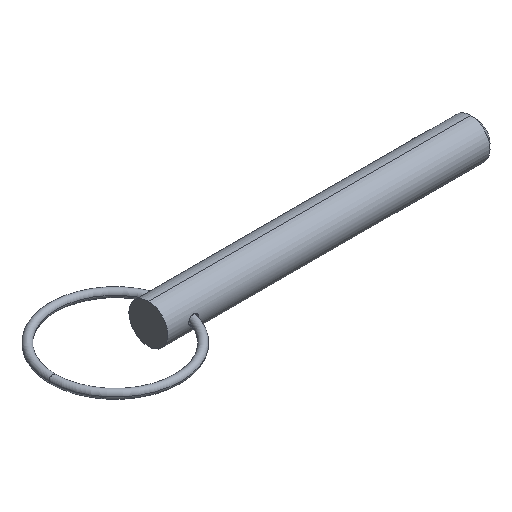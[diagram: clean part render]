
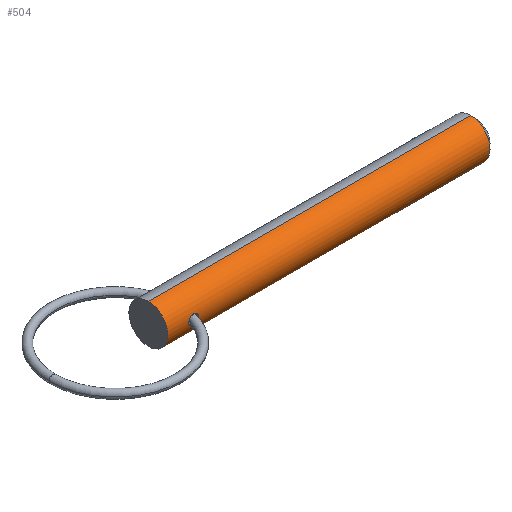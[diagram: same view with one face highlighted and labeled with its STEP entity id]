
A CAD part, isometric view. The second image highlights one B-rep face of the part: STEP entity #504.
In plain terms, the highlighted cylindrical face has radius 3.97 mm (diameter 7.94 mm), a partial arc.
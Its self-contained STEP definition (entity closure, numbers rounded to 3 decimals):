
#1 = CARTESIAN_POINT ( 'NONE',  ( 4.292, -3.963, 0.268 ) ) ;
#11 = CARTESIAN_POINT ( 'NONE',  ( 5.837, -3.871, -0.882 ) ) ;
#26 = DIRECTION ( 'NONE',  ( 1., 0., 0. ) ) ;
#33 = DIRECTION ( 'NONE',  ( 1., 0., 0. ) ) ;
#43 = EDGE_CURVE ( 'NONE', #177, #647, #679, .T. ) ;
#64 = CARTESIAN_POINT ( 'NONE',  ( 5.839, -3.871, 0.882 ) ) ;
#69 = ORIENTED_EDGE ( 'NONE', *, *, #281, .T. ) ;
#74 = CARTESIAN_POINT ( 'NONE',  ( 6.35, -3.97, 0. ) ) ;
#79 = CARTESIAN_POINT ( 'NONE',  ( 4.408, -3.939, -0.508 ) ) ;
#101 = AXIS2_PLACEMENT_3D ( 'NONE', #404, #26, #284 ) ;
#105 = DIRECTION ( 'NONE',  ( 1., 0., 0. ) ) ;
#118 = ORIENTED_EDGE ( 'NONE', *, *, #787, .F. ) ;
#120 = CARTESIAN_POINT ( 'NONE',  ( 4.492, -3.923, -0.614 ) ) ;
#129 = ORIENTED_EDGE ( 'NONE', *, *, #43, .T. ) ;
#149 = CARTESIAN_POINT ( 'NONE',  ( 6.35, -3.97, 0. ) ) ;
#159 = EDGE_CURVE ( 'NONE', #647, #177, #291, .T. ) ;
#177 = VERTEX_POINT ( 'NONE', #616 ) ;
#181 = AXIS2_PLACEMENT_3D ( 'NONE', #765, #690, #754 ) ;
#188 = CARTESIAN_POINT ( 'NONE',  ( 4.408, -3.939, 0.507 ) ) ;
#189 = CARTESIAN_POINT ( 'NONE',  ( 5.587, -3.849, 0.975 ) ) ;
#195 = CARTESIAN_POINT ( 'NONE',  ( 6.35, -3.97, -0.133 ) ) ;
#201 = CARTESIAN_POINT ( 'NONE',  ( 5.587, -3.849, -0.975 ) ) ;
#206 = CIRCLE ( 'NONE', #101, 3.97 ) ;
#216 = CARTESIAN_POINT ( 'NONE',  ( 65.688, 0., -3.97 ) ) ;
#228 = CARTESIAN_POINT ( 'NONE',  ( 4.26, -3.97, 0. ) ) ;
#257 = CARTESIAN_POINT ( 'NONE',  ( 4.691, -3.891, 0.792 ) ) ;
#261 = CARTESIAN_POINT ( 'NONE',  ( 5.455, -3.843, 0.996 ) ) ;
#266 = CARTESIAN_POINT ( 'NONE',  ( 5.952, -3.887, -0.811 ) ) ;
#268 = EDGE_CURVE ( 'NONE', #523, #704, #206, .T. ) ;
#281 = EDGE_CURVE ( 'NONE', #704, #518, #678, .T. ) ;
#284 = DIRECTION ( 'NONE',  ( 0., 0., -1. ) ) ;
#291 = B_SPLINE_CURVE_WITH_KNOTS ( 'NONE', 3,
 ( #462, #573, #1, #188, #646, #257, #730, #512, #778, #261, #189, #64, #445, #416, #811, #541, #610, #149 ),
 .UNSPECIFIED., .F., .F.,
 ( 4, 2, 2, 2, 2, 2, 2, 2, 4 ),
 ( 0.001, 0.001, 0.001, 0.002, 0.002, 0.003, 0.003, 0.003, 0.004 ),
 .UNSPECIFIED. ) ;
#321 = CARTESIAN_POINT ( 'NONE',  ( 4.26, -3.97, -0.134 ) ) ;
#368 = EDGE_CURVE ( 'NONE', #523, #378, #495, .T. ) ;
#378 = VERTEX_POINT ( 'NONE', #699 ) ;
#384 = CARTESIAN_POINT ( 'NONE',  ( 6.324, -3.963, -0.267 ) ) ;
#390 = CARTESIAN_POINT ( 'NONE',  ( 6.145, -3.922, -0.626 ) ) ;
#395 = CARTESIAN_POINT ( 'NONE',  ( 4.291, -3.963, -0.267 ) ) ;
#397 = CARTESIAN_POINT ( 'NONE',  ( 0., 0., -3.97 ) ) ;
#398 = CARTESIAN_POINT ( 'NONE',  ( 5.452, -3.843, -0.996 ) ) ;
#404 = CARTESIAN_POINT ( 'NONE',  ( 0., 0., 0. ) ) ;
#415 = CARTESIAN_POINT ( 'NONE',  ( 0., 0., 0. ) ) ;
#416 = CARTESIAN_POINT ( 'NONE',  ( 6.144, -3.921, 0.626 ) ) ;
#420 = FACE_OUTER_BOUND ( 'NONE', #706, .T. ) ;
#425 = CYLINDRICAL_SURFACE ( 'NONE', #674, 3.97 ) ;
#436 = VECTOR ( 'NONE', #105, 1000. ) ;
#445 = CARTESIAN_POINT ( 'NONE',  ( 5.953, -3.888, 0.81 ) ) ;
#457 = CARTESIAN_POINT ( 'NONE',  ( 5.052, -3.846, -0.984 ) ) ;
#462 = CARTESIAN_POINT ( 'NONE',  ( 4.26, -3.97, 0. ) ) ;
#475 = CARTESIAN_POINT ( 'NONE',  ( 0., 0., 3.97 ) ) ;
#495 = LINE ( 'NONE', #636, #436 ) ;
#504 = ADVANCED_FACE ( 'NONE', ( #420, #552 ), #425, .T. ) ;
#512 = CARTESIAN_POINT ( 'NONE',  ( 5.055, -3.852, 0.961 ) ) ;
#518 = VERTEX_POINT ( 'NONE', #216 ) ;
#523 = VERTEX_POINT ( 'NONE', #475 ) ;
#541 = CARTESIAN_POINT ( 'NONE',  ( 6.323, -3.963, 0.268 ) ) ;
#552 = FACE_BOUND ( 'NONE', #570, .T. ) ;
#563 = ORIENTED_EDGE ( 'NONE', *, *, #368, .F. ) ;
#570 = EDGE_LOOP ( 'NONE', ( #634, #129 ) ) ;
#573 = CARTESIAN_POINT ( 'NONE',  ( 4.26, -3.97, 0.134 ) ) ;
#609 = DIRECTION ( 'NONE',  ( 0., 0., -1. ) ) ;
#610 = CARTESIAN_POINT ( 'NONE',  ( 6.35, -3.97, 0.134 ) ) ;
#616 = CARTESIAN_POINT ( 'NONE',  ( 6.35, -3.97, 0. ) ) ;
#634 = ORIENTED_EDGE ( 'NONE', *, *, #159, .T. ) ;
#636 = CARTESIAN_POINT ( 'NONE',  ( 0., 0., 3.97 ) ) ;
#644 = ORIENTED_EDGE ( 'NONE', *, *, #268, .T. ) ;
#646 = CARTESIAN_POINT ( 'NONE',  ( 4.492, -3.923, 0.614 ) ) ;
#647 = VERTEX_POINT ( 'NONE', #228 ) ;
#657 = CARTESIAN_POINT ( 'NONE',  ( 6.221, -3.939, -0.514 ) ) ;
#674 = AXIS2_PLACEMENT_3D ( 'NONE', #415, #33, #609 ) ;
#678 = LINE ( 'NONE', #838, #761 ) ;
#679 = B_SPLINE_CURVE_WITH_KNOTS ( 'NONE', 3,
 ( #74, #195, #384, #657, #390, #266, #11, #201, #398, #457, #776, #120, #79, #395, #321, #841 ),
 .UNSPECIFIED., .F., .F.,
 ( 4, 2, 2, 2, 2, 2, 2, 4 ),
 ( 0.004, 0.004, 0.005, 0.005, 0.005, 0.006, 0.007, 0.007 ),
 .UNSPECIFIED. ) ;
#690 = DIRECTION ( 'NONE',  ( 1., 0., 0. ) ) ;
#699 = CARTESIAN_POINT ( 'NONE',  ( 65.688, 0., 3.97 ) ) ;
#704 = VERTEX_POINT ( 'NONE', #397 ) ;
#706 = EDGE_LOOP ( 'NONE', ( #563, #644, #69, #118 ) ) ;
#730 = CARTESIAN_POINT ( 'NONE',  ( 4.805, -3.876, 0.862 ) ) ;
#754 = DIRECTION ( 'NONE',  ( 0., 0., -1. ) ) ;
#761 = VECTOR ( 'NONE', #829, 1000. ) ;
#765 = CARTESIAN_POINT ( 'NONE',  ( 65.688, 0., 0. ) ) ;
#776 = CARTESIAN_POINT ( 'NONE',  ( 4.788, -3.876, -0.879 ) ) ;
#778 = CARTESIAN_POINT ( 'NONE',  ( 5.185, -3.845, 0.988 ) ) ;
#787 = EDGE_CURVE ( 'NONE', #378, #518, #816, .T. ) ;
#811 = CARTESIAN_POINT ( 'NONE',  ( 6.221, -3.939, 0.513 ) ) ;
#816 = CIRCLE ( 'NONE', #181, 3.97 ) ;
#829 = DIRECTION ( 'NONE',  ( 1., 0., 0. ) ) ;
#838 = CARTESIAN_POINT ( 'NONE',  ( 0., 0., -3.97 ) ) ;
#841 = CARTESIAN_POINT ( 'NONE',  ( 4.26, -3.97, 0. ) ) ;
